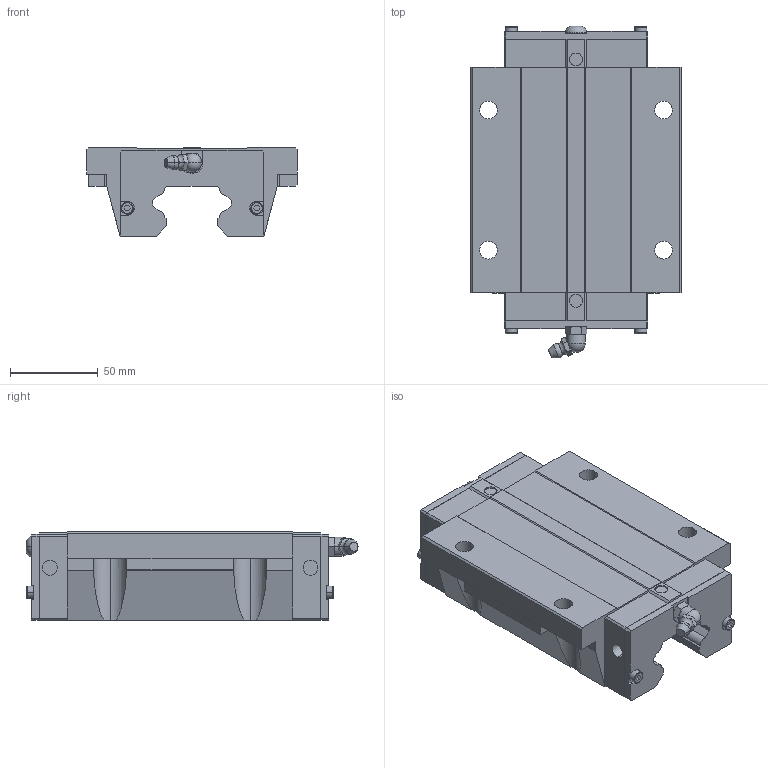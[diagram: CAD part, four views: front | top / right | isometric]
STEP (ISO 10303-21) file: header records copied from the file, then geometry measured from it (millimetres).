
FILE_DESCRIPTION(('no description'),'unknown implementation level');
FILE_NAME('HGW45HC_Z0_H_SS_25.stp',' ',('HIWIN GmbH'),('CADClick - KiM GmbH - www.kimweb.de'),'unknown preprocess','ACIS','unknown authorization');
FILE_SCHEMA(('automotive_design'));
Length unit declared in the file: millimetre
Products named in the file (1): HGW45HC Z0 H SS
Bounding box: 120 x 189.52 x 50.5 mm (x, y, z)
Volume: 628566.4 mm3; surface area: 77788.3 mm2
Topology: 1 solids, 6 shells, 315 faces, 824 edges, 530 vertices
Faces by surface type: plane 201, cylinder 68, torus 30, cone 14, sphere 2
Entity records: 19124 total; most frequent: CARTESIAN_POINT 1968, STYLED_ITEM 1668, PRESENTATION_STYLE_ASSIGNMENT 1668, COLOUR_RGB 1668, ORIENTED_EDGE 1644, DIRECTION 1636, EDGE_CURVE 822, CURVE_STYLE 822
